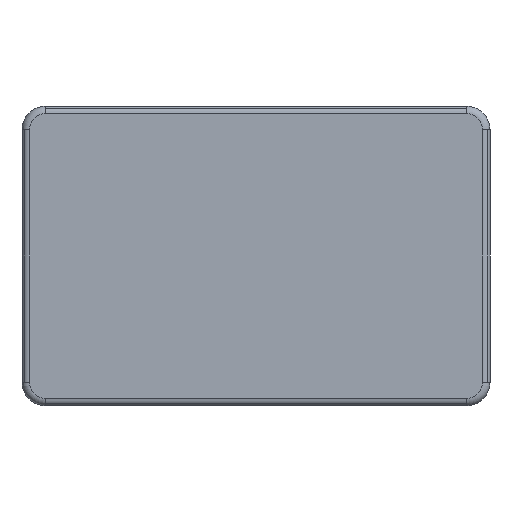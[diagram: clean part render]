
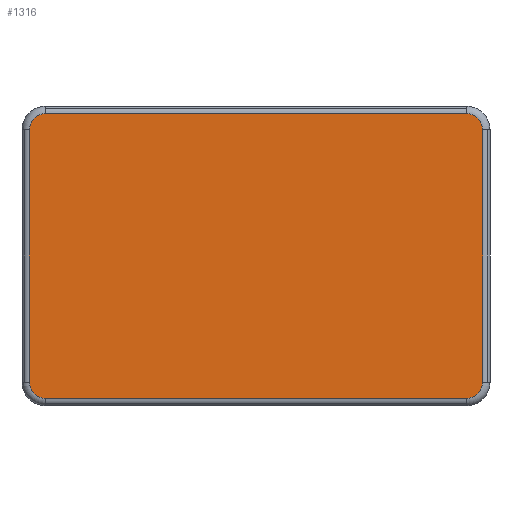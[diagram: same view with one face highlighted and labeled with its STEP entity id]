
A CAD part, front view. The second image highlights one B-rep face of the part: STEP entity #1316.
In plain terms, the highlighted planar face has unit normal (0, -1, 0).
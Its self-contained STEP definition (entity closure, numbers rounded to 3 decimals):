
#1316=ADVANCED_FACE('',(#3531),#3532,.F.);
#3531=FACE_OUTER_BOUND('',#5750,.T.);
#3532=PLANE('',#5751);
#5750=EDGE_LOOP('',(#15410,#15411,#15412,#15413,#15414,#15415,#15416,#15417));
#5751=AXIS2_PLACEMENT_3D('',#15418,#15419,#15420);
#15410=ORIENTED_EDGE('',*,*,#18632,.F.);
#15411=ORIENTED_EDGE('',*,*,#18566,.F.);
#15412=ORIENTED_EDGE('',*,*,#18646,.F.);
#15413=ORIENTED_EDGE('',*,*,#18570,.F.);
#15414=ORIENTED_EDGE('',*,*,#18643,.F.);
#15415=ORIENTED_EDGE('',*,*,#18574,.F.);
#15416=ORIENTED_EDGE('',*,*,#18638,.F.);
#15417=ORIENTED_EDGE('',*,*,#18578,.F.);
#15418=CARTESIAN_POINT('',(0.,-2.0,0.));
#15419=DIRECTION('',(0.0,1.0,0.0));
#15420=DIRECTION('',(0.0,0.0,1.0));
#18566=EDGE_CURVE('',#23815,#23817,#23818,.T.);
#18570=EDGE_CURVE('',#23823,#23825,#23826,.T.);
#18574=EDGE_CURVE('',#23831,#23833,#23834,.T.);
#18578=EDGE_CURVE('',#23839,#23841,#23842,.T.);
#18632=EDGE_CURVE('',#23817,#23839,#23927,.T.);
#18638=EDGE_CURVE('',#23841,#23831,#23934,.T.);
#18643=EDGE_CURVE('',#23833,#23823,#23939,.T.);
#18646=EDGE_CURVE('',#23825,#23815,#23942,.T.);
#23815=VERTEX_POINT('',#32136);
#23817=VERTEX_POINT('',#32138);
#23818=LINE('',#32139,#32140);
#23823=VERTEX_POINT('',#32146);
#23825=VERTEX_POINT('',#32148);
#23826=LINE('',#32149,#32150);
#23831=VERTEX_POINT('',#32156);
#23833=VERTEX_POINT('',#32158);
#23834=LINE('',#32159,#32160);
#23839=VERTEX_POINT('',#32166);
#23841=VERTEX_POINT('',#32168);
#23842=LINE('',#32169,#32170);
#23927=CIRCLE('',#32276,0.043);
#23934=CIRCLE('',#32284,0.043);
#23939=CIRCLE('',#32290,0.043);
#23942=CIRCLE('',#32293,0.043);
#32136=CARTESIAN_POINT('',(-0.563,-2.0,0.38));
#32138=CARTESIAN_POINT('',(0.563,-2.0,0.38));
#32139=CARTESIAN_POINT('',(-0.281,-2.0,0.38));
#32140=VECTOR('',#35552,1.0);
#32146=CARTESIAN_POINT('',(-0.605,-2.0,-0.338));
#32148=CARTESIAN_POINT('',(-0.605,-2.0,0.338));
#32149=CARTESIAN_POINT('',(-0.605,-2.0,-0.169));
#32150=VECTOR('',#35560,1.0);
#32156=CARTESIAN_POINT('',(0.563,-2.0,-0.38));
#32158=CARTESIAN_POINT('',(-0.563,-2.0,-0.38));
#32159=CARTESIAN_POINT('',(0.281,-2.0,-0.38));
#32160=VECTOR('',#35568,1.0);
#32166=CARTESIAN_POINT('',(0.605,-2.0,0.338));
#32168=CARTESIAN_POINT('',(0.605,-2.0,-0.338));
#32169=CARTESIAN_POINT('',(0.605,-2.0,0.169));
#32170=VECTOR('',#35576,1.0);
#32276=AXIS2_PLACEMENT_3D('',#35694,#35695,#35696);
#32284=AXIS2_PLACEMENT_3D('',#35710,#35711,#35712);
#32290=AXIS2_PLACEMENT_3D('',#35723,#35724,#35725);
#32293=AXIS2_PLACEMENT_3D('',#35732,#35733,#35734);
#35552=DIRECTION('',(1.0,0.0,0.0));
#35560=DIRECTION('',(0.0,0.0,1.0));
#35568=DIRECTION('',(-1.0,0.0,0.0));
#35576=DIRECTION('',(0.0,0.0,-1.0));
#35694=CARTESIAN_POINT('',(0.563,-2.0,0.338));
#35695=DIRECTION('',(-0.0,1.0,0.0));
#35696=DIRECTION('',(0.707,0.0,0.707));
#35710=CARTESIAN_POINT('',(0.563,-2.0,-0.338));
#35711=DIRECTION('',(0.0,1.0,0.0));
#35712=DIRECTION('',(0.707,0.0,-0.707));
#35723=CARTESIAN_POINT('',(-0.563,-2.0,-0.338));
#35724=DIRECTION('',(0.0,1.0,0.0));
#35725=DIRECTION('',(-0.707,0.0,-0.707));
#35732=CARTESIAN_POINT('',(-0.563,-2.0,0.338));
#35733=DIRECTION('',(0.0,1.0,0.0));
#35734=DIRECTION('',(-0.707,0.0,0.707));
